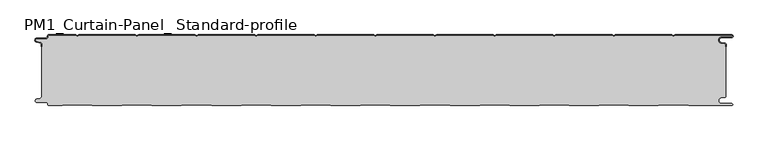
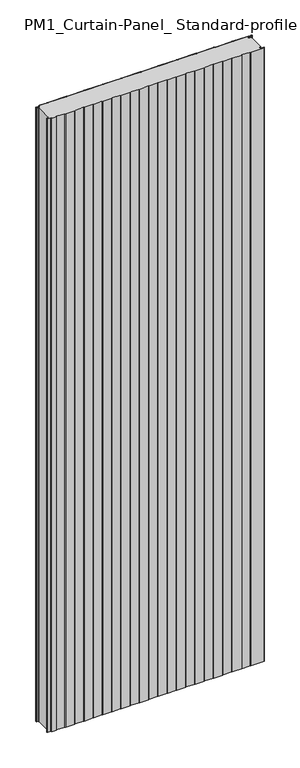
"""IFC4 building model written with IfcOpenShell, lengths in millimetres: plate geometry, PM1_Curtain-Panel_ Standard-profile : ACH_PM1_Acoustic-Sectioning-Panel_120M."""

from ifc_helpers import new_model, si_unit, point, frame, frame_2d, origin, origin_with_axes, place, context, project, spatial, polyline, circle_curve, trimmed, segment, composite_curve, outline, extrude, source, transform, mapped, element, save
from ifc_brep_helpers import plane_surface, cylinder_surface, revolved_surface, advanced_brep


def pm1_curtain_panel_standard_profile_a12e6484(model_context):
    return source(origin(), model_context, "Body", "SolidModel", [
        advanced_brep(
        [(-575.0, -15.878557, 3500.0), (-575.0, -20.0, 3500.0), (-574.2, -20.0, 3500.0), (-574.2, -15.878557, 3500.0), (-576.370137, -13.1503208, 3500.0), (-582.529863, -11.728236, 3500.0), (-581.9, -6.2, 3500.0), (-566.4, -6.2, 3500.0), (-563.6, -3.4, 3500.0), (-563.6, -2.0, 3500.0), (-562.4, -0.8, 3500.0), (-517.3143588, -0.8, 3500.0), (-514.4, -2.482606, 3500.0), (-511.4856412, -0.8, 3500.0), (-417.3143588, -0.8, 3500.0), (-414.4, -2.482606, 3500.0), (-411.4856412, -0.8, 3500.0), (-317.3143588, -0.8, 3500.0), (-314.4, -2.482606, 3500.0), (-311.4856412, -0.8, 3500.0), (-217.3143588, -0.8, 3500.0), (-214.4, -2.482606, 3500.0), (-211.4856412, -0.8, 3500.0), (-117.3143588, -0.8, 3500.0), (-114.4, -2.482606, 3500.0), (-111.4856412, -0.8, 3500.0), (-17.3143588, -0.8, 3500.0), (-14.4, -2.482606, 3500.0), (-11.4856412, -0.8, 3500.0), (82.6856412, -0.8, 3500.0), (85.6, -2.482606, 3500.0), (88.5143588, -0.8, 3500.0), (182.6856412, -0.8, 3500.0), (185.6, -2.482606, 3500.0), (188.5143588, -0.8, 3500.0), (282.6856412, -0.8, 3500.0), (285.6, -2.482606, 3500.0), (288.5143588, -0.8, 3500.0), (382.6856412, -0.8, 3500.0), (385.6, -2.482606, 3500.0), (388.5143588, -0.8, 3500.0), (482.6856412, -0.8, 3500.0), (485.6, -2.482606, 3500.0), (488.5143588, -0.8, 3500.0), (583.1, -0.8, 3500.0), (583.1, -4.2, 3500.0), (566.1, -4.2, 3500.0), (565.2664884, -13.7270771, 3500.0), (571.7125669, -14.8636953, 3500.0), (573.2, -16.6363492, 3500.0), (573.2, -20.0, 3500.0), (574.0, -20.0, 3500.0), (574.0, -16.6363492, 3500.0), (571.8514855, -14.0758491, 3500.0), (565.405407, -12.939231, 3500.0), (566.1, -5.0, 3500.0), (583.1, -5.0, 3500.0), (585.6, -2.5, 3500.0), (583.1, 0.0, 3500.0), (488.2999995, 0.0, 3500.0), (485.6, -1.5588455, 3500.0), (482.9000005, 0.0, 3500.0), (388.2999995, 0.0, 3500.0), (385.6, -1.5588455, 3500.0), (382.9000005, 0.0, 3500.0), (288.2999995, 0.0, 3500.0), (285.6, -1.5588455, 3500.0), (282.9000005, 0.0, 3500.0), (188.2999995, 0.0, 3500.0), (185.6, -1.5588455, 3500.0), (182.9000005, 0.0, 3500.0), (88.2999995, 0.0, 3500.0), (85.6, -1.5588455, 3500.0), (82.9000005, 0.0, 3500.0), (-11.7000005, 0.0, 3500.0), (-14.4, -1.5588455, 3500.0), (-17.0999995, 0.0, 3500.0), (-111.7000005, 0.0, 3500.0), (-114.4, -1.5588455, 3500.0), (-117.0999995, 0.0, 3500.0), (-211.7000005, 0.0, 3500.0), (-214.4, -1.5588455, 3500.0), (-217.0999995, 0.0, 3500.0), (-311.7000005, 0.0, 3500.0), (-314.4, -1.5588455, 3500.0), (-317.0999995, 0.0, 3500.0), (-411.7000005, 0.0, 3500.0), (-414.4, -1.5588455, 3500.0), (-417.0999995, 0.0, 3500.0), (-511.7000005, 0.0, 3500.0), (-514.4, -1.5588455, 3500.0), (-517.0999995, 0.0, 3500.0), (-562.4, 0.0, 3500.0), (-564.4, -2.0, 3500.0), (-564.4, -3.4, 3500.0), (-566.4, -5.4, 3500.0), (-581.9, -5.4, 3500.0), (-582.7098239, -12.5077322, 3500.0), (-576.5500979, -13.929817, 3500.0), (-575.0, -15.878557, 0.0), (-576.5500978, -13.9298169, 0.0), (-582.7098239, -12.507732, 0.0), (-581.9, -5.4, 0.0), (-566.4, -5.4, 0.0), (-564.4, -3.4, 0.0), (-564.4, -2.0, 0.0), (-562.4, 0.0, 0.0), (-517.0999995, 0.0, 0.0), (-514.4, -1.5588455, 0.0), (-511.7000005, 0.0, 0.0), (-417.0999995, 0.0, 0.0), (-414.4, -1.5588455, 0.0), (-411.7000005, 0.0, 0.0), (-317.0999995, 0.0, 0.0), (-314.4, -1.5588455, 0.0), (-311.7000005, 0.0, 0.0), (-217.0999995, 0.0, 0.0), (-214.4, -1.5588455, 0.0), (-211.7000005, 0.0, 0.0), (-117.0999995, 0.0, 0.0), (-114.4, -1.5588455, 0.0), (-111.7000005, 0.0, 0.0), (-17.0999995, 0.0, 0.0), (-14.4, -1.5588455, 0.0), (-11.7000005, 0.0, 0.0), (82.9000005, 0.0, 0.0), (85.6, -1.5588455, 0.0), (88.2999995, 0.0, 0.0), (182.9000005, 0.0, 0.0), (185.6, -1.5588455, 0.0), (188.2999995, 0.0, 0.0), (282.9000005, 0.0, 0.0), (285.6, -1.5588455, 0.0), (288.2999995, 0.0, 0.0), (382.9000005, 0.0, 0.0), (385.6, -1.5588455, 0.0), (388.2999995, 0.0, 0.0), (482.9000005, 0.0, 0.0), (485.6, -1.5588455, 0.0), (488.2999995, 0.0, 0.0), (583.1, 0.0, 0.0), (585.6, -2.5, 0.0), (583.1, -5.0, 0.0), (566.1, -5.0, 0.0), (565.405407, -12.939231, 0.0), (571.8514855, -14.0758491, 0.0), (574.0, -16.6363492, 0.0), (574.0, -20.0, 0.0), (573.2, -20.0, 0.0), (573.2, -16.6363492, 0.0), (571.7125669, -14.8636953, 0.0), (565.2664884, -13.7270772, 0.0), (566.1, -4.2, 0.0), (583.1, -4.2, 0.0), (583.1, -0.8, 0.0), (488.5143588, -0.8, 0.0), (485.6, -2.482606, 0.0), (482.6856412, -0.8, 0.0), (388.5143588, -0.8, 0.0), (385.6, -2.482606, 0.0), (382.6856412, -0.8, 0.0), (288.5143588, -0.8, 0.0), (285.6, -2.482606, 0.0), (282.6856412, -0.8, 0.0), (188.5143588, -0.8, 0.0), (185.6, -2.482606, 0.0), (182.6856412, -0.8, 0.0), (88.5143588, -0.8, 0.0), (85.6, -2.482606, 0.0), (82.6856412, -0.8, 0.0), (-11.4856412, -0.8, 0.0), (-14.4, -2.482606, 0.0), (-17.3143588, -0.8, 0.0), (-111.4856412, -0.8, 0.0), (-114.4, -2.482606, 0.0), (-117.3143588, -0.8, 0.0), (-211.4856412, -0.8, 0.0), (-214.4, -2.482606, 0.0), (-217.3143588, -0.8, 0.0), (-311.4856412, -0.8, 0.0), (-314.4, -2.482606, 0.0), (-317.3143588, -0.8, 0.0), (-411.4856412, -0.8, 0.0), (-414.4, -2.482606, 0.0), (-417.3143588, -0.8, 0.0), (-511.4856412, -0.8, 0.0), (-514.4, -2.482606, 0.0), (-517.3143588, -0.8, 0.0), (-562.4, -0.8, 0.0), (-563.6, -2.0, 0.0), (-563.6, -3.4, 0.0), (-566.4, -6.2, 0.0), (-581.9, -6.2, 0.0), (-582.529863, -11.7282362, 0.0), (-576.370137, -13.150321, 0.0), (-574.2, -15.878557, 0.0), (-574.2, -20.0, 0.0), (-575.0, -20.0, 0.0)],
        [
            (0, 1),
            (1, 2),
            (2, 3),
            (3, 4, circle_curve(frame((-577.0, -15.878557, 3500.0), z_axis=(0.0, 0.0, 1.0), x_axis=(1.0, 0.0, 0.0)), 2.8)),
            (4, 5),
            (5, 6, circle_curve(frame((-581.9, -9.0, 3500.0), z_axis=(0.0, 0.0, -1.0), x_axis=(1.0, 0.0, 0.0)), 2.8)),
            (6, 7),
            (7, 8, circle_curve(frame((-566.4, -3.4, 3500.0), z_axis=(0.0, 0.0, 1.0), x_axis=(1.0, 0.0, 0.0)), 2.8)),
            (8, 9),
            (9, 10, circle_curve(frame((-562.4, -2.0, 3500.0), z_axis=(0.0, 0.0, -1.0), x_axis=(1.0, 0.0, 0.0)), 1.2)),
            (10, 11),
            (11, 12),
            (12, 13),
            (13, 14),
            (14, 15),
            (15, 16),
            (16, 17),
            (17, 18),
            (18, 19),
            (19, 20),
            (20, 21),
            (21, 22),
            (22, 23),
            (23, 24),
            (24, 25),
            (25, 26),
            (26, 27),
            (27, 28),
            (28, 29),
            (29, 30),
            (30, 31),
            (31, 32),
            (32, 33),
            (33, 34),
            (34, 35),
            (35, 36),
            (36, 37),
            (37, 38),
            (38, 39),
            (39, 40),
            (40, 41),
            (41, 42),
            (42, 43),
            (43, 44),
            (44, 45, circle_curve(frame((583.1, -2.5, 3500.0), z_axis=(0.0, 0.0, -1.0), x_axis=(1.0, 0.0, 0.0)), 1.7)),
            (45, 46),
            (46, 47, circle_curve(frame((566.1, -9.0, 3500.0), z_axis=(0.0, 0.0, 1.0), x_axis=(1.0, 0.0, 0.0)), 4.8)),
            (47, 48),
            (48, 49, circle_curve(frame((571.4, -16.6363492, 3500.0), z_axis=(0.0, 0.0, -1.0), x_axis=(1.0, 0.0, 0.0)), 1.8)),
            (49, 50),
            (50, 51),
            (51, 52),
            (52, 53, circle_curve(frame((571.4, -16.6363492, 3500.0), z_axis=(0.0, 0.0, 1.0), x_axis=(1.0, 0.0, 0.0)), 2.6)),
            (53, 54),
            (54, 55, circle_curve(frame((566.1, -9.0, 3500.0), z_axis=(0.0, 0.0, -1.0), x_axis=(1.0, 0.0, 0.0)), 4.0)),
            (55, 56),
            (56, 57, circle_curve(frame((583.1, -2.5, 3500.0), z_axis=(0.0, 0.0, 1.0), x_axis=(1.0, 0.0, 0.0)), 2.5)),
            (57, 58, circle_curve(frame((583.1, -2.5, 3500.0), z_axis=(0.0, 0.0, 1.0), x_axis=(1.0, 0.0, 0.0)), 2.5)),
            (58, 59),
            (59, 60),
            (60, 61),
            (61, 62),
            (62, 63),
            (63, 64),
            (64, 65),
            (65, 66),
            (66, 67),
            (67, 68),
            (68, 69),
            (69, 70),
            (70, 71),
            (71, 72),
            (72, 73),
            (73, 74),
            (74, 75),
            (75, 76),
            (76, 77),
            (77, 78),
            (78, 79),
            (79, 80),
            (80, 81),
            (81, 82),
            (82, 83),
            (83, 84),
            (84, 85),
            (85, 86),
            (86, 87),
            (87, 88),
            (88, 89),
            (89, 90),
            (90, 91),
            (91, 92),
            (92, 93, circle_curve(frame((-562.4, -2.0, 3500.0), z_axis=(0.0, 0.0, 1.0), x_axis=(1.0, 0.0, 0.0)), 2.0)),
            (93, 94),
            (94, 95, circle_curve(frame((-566.4, -3.4, 3500.0), z_axis=(0.0, 0.0, -1.0), x_axis=(1.0, 0.0, 0.0)), 2.0)),
            (95, 96),
            (96, 97, circle_curve(frame((-581.9, -9.0, 3500.0), z_axis=(0.0, 0.0, 1.0), x_axis=(1.0, 0.0, 0.0)), 3.6)),
            (97, 98),
            (98, 0, circle_curve(frame((-577.0, -15.878557, 3500.0), z_axis=(0.0, 0.0, -1.0), x_axis=(1.0, 0.0, 0.0)), 2.0)),
            (99, 100, circle_curve(frame((-577.0, -15.878557, 0.0), z_axis=(0.0, 0.0, 1.0), x_axis=(1.0, 0.0, 0.0)), 2.0)),
            (100, 101),
            (101, 102, circle_curve(frame((-581.9, -9.0, 0.0), z_axis=(0.0, 0.0, -1.0), x_axis=(1.0, 0.0, 0.0)), 3.6)),
            (102, 103),
            (103, 104, circle_curve(frame((-566.4, -3.4, 0.0), z_axis=(0.0, 0.0, 1.0), x_axis=(1.0, 0.0, 0.0)), 2.0)),
            (104, 105),
            (105, 106, circle_curve(frame((-562.4, -2.0, 0.0), z_axis=(0.0, 0.0, -1.0), x_axis=(1.0, 0.0, 0.0)), 2.0)),
            (106, 107),
            (107, 108),
            (108, 109),
            (109, 110),
            (110, 111),
            (111, 112),
            (112, 113),
            (113, 114),
            (114, 115),
            (115, 116),
            (116, 117),
            (117, 118),
            (118, 119),
            (119, 120),
            (120, 121),
            (121, 122),
            (122, 123),
            (123, 124),
            (124, 125),
            (125, 126),
            (126, 127),
            (127, 128),
            (128, 129),
            (129, 130),
            (130, 131),
            (131, 132),
            (132, 133),
            (133, 134),
            (134, 135),
            (135, 136),
            (136, 137),
            (137, 138),
            (138, 139),
            (139, 140),
            (140, 141, circle_curve(frame((583.1, -2.5, 0.0), z_axis=(0.0, 0.0, -1.0), x_axis=(1.0, 0.0, 0.0)), 2.5)),
            (141, 142, circle_curve(frame((583.1, -2.5, 0.0), z_axis=(0.0, 0.0, -1.0), x_axis=(1.0, 0.0, 0.0)), 2.5)),
            (142, 143),
            (143, 144, circle_curve(frame((566.1, -9.0, 0.0), z_axis=(0.0, 0.0, 1.0), x_axis=(1.0, 0.0, 0.0)), 4.0)),
            (144, 145),
            (145, 146, circle_curve(frame((571.4, -16.6363492, 0.0), z_axis=(0.0, 0.0, -1.0), x_axis=(1.0, 0.0, 0.0)), 2.6)),
            (146, 147),
            (147, 148),
            (148, 149),
            (149, 150, circle_curve(frame((571.4, -16.6363492, 0.0), z_axis=(0.0, 0.0, 1.0), x_axis=(1.0, 0.0, 0.0)), 1.8)),
            (150, 151),
            (151, 152, circle_curve(frame((566.1, -9.0, 0.0), z_axis=(0.0, 0.0, -1.0), x_axis=(1.0, 0.0, 0.0)), 4.8)),
            (152, 153),
            (153, 154, circle_curve(frame((583.1, -2.5, 0.0), z_axis=(0.0, 0.0, 1.0), x_axis=(1.0, 0.0, 0.0)), 1.7)),
            (154, 155),
            (155, 156),
            (156, 157),
            (157, 158),
            (158, 159),
            (159, 160),
            (160, 161),
            (161, 162),
            (162, 163),
            (163, 164),
            (164, 165),
            (165, 166),
            (166, 167),
            (167, 168),
            (168, 169),
            (169, 170),
            (170, 171),
            (171, 172),
            (172, 173),
            (173, 174),
            (174, 175),
            (175, 176),
            (176, 177),
            (177, 178),
            (178, 179),
            (179, 180),
            (180, 181),
            (181, 182),
            (182, 183),
            (183, 184),
            (184, 185),
            (185, 186),
            (186, 187),
            (187, 188),
            (188, 189, circle_curve(frame((-562.4, -2.0, 0.0), z_axis=(0.0, 0.0, 1.0), x_axis=(1.0, 0.0, 0.0)), 1.2)),
            (189, 190),
            (190, 191, circle_curve(frame((-566.4, -3.4, 0.0), z_axis=(0.0, 0.0, -1.0), x_axis=(1.0, 0.0, 0.0)), 2.8)),
            (191, 192),
            (192, 193, circle_curve(frame((-581.9, -9.0, 0.0), z_axis=(0.0, 0.0, 1.0), x_axis=(1.0, 0.0, 0.0)), 2.8)),
            (193, 194),
            (194, 195, circle_curve(frame((-577.0, -15.878557, 0.0), z_axis=(0.0, 0.0, -1.0), x_axis=(1.0, 0.0, 0.0)), 2.8)),
            (195, 196),
            (196, 197),
            (197, 99),
            (0, 99),
            (197, 1),
            (196, 2),
            (195, 3),
            (194, 4),
            (193, 5),
            (192, 6),
            (191, 7),
            (190, 8),
            (189, 9),
            (188, 10),
            (187, 11),
            (186, 12),
            (185, 13),
            (184, 14),
            (183, 15),
            (182, 16),
            (181, 17),
            (180, 18),
            (179, 19),
            (178, 20),
            (177, 21),
            (176, 22),
            (175, 23),
            (174, 24),
            (173, 25),
            (172, 26),
            (171, 27),
            (170, 28),
            (169, 29),
            (168, 30),
            (167, 31),
            (166, 32),
            (165, 33),
            (164, 34),
            (163, 35),
            (162, 36),
            (161, 37),
            (160, 38),
            (159, 39),
            (158, 40),
            (157, 41),
            (156, 42),
            (155, 43),
            (154, 44),
            (153, 45),
            (152, 46),
            (151, 47),
            (150, 48),
            (149, 49),
            (148, 50),
            (147, 51),
            (146, 52),
            (145, 53),
            (144, 54),
            (143, 55),
            (142, 56),
            (140, 58),
            (139, 59),
            (138, 60),
            (137, 61),
            (136, 62),
            (135, 63),
            (134, 64),
            (133, 65),
            (132, 66),
            (131, 67),
            (130, 68),
            (129, 69),
            (128, 70),
            (127, 71),
            (126, 72),
            (125, 73),
            (124, 74),
            (123, 75),
            (122, 76),
            (121, 77),
            (120, 78),
            (119, 79),
            (118, 80),
            (117, 81),
            (116, 82),
            (115, 83),
            (114, 84),
            (113, 85),
            (112, 86),
            (111, 87),
            (110, 88),
            (109, 89),
            (108, 90),
            (107, 91),
            (106, 92),
            (105, 93),
            (104, 94),
            (103, 95),
            (102, 96),
            (101, 97),
            (100, 98),
        ],
        [
            plane_surface(frame((-575.0, 0.0, 3500.0), z_axis=(0.0, 0.0, 1.0), x_axis=(0.0, 1.0, 0.0))),
            plane_surface(frame((-575.0, 0.0, 0.0), z_axis=(0.0, 0.0, -1.0), x_axis=(0.0, 1.0, 0.0))),
            plane_surface(frame((-575.0, -15.878557, 3500.0), z_axis=(-1.0, 0.0, 0.0), x_axis=(0.0, 0.0, -1.0))),
            plane_surface(frame((-575.0, -20.0, 3500.0), z_axis=(0.0, -1.0, 0.0), x_axis=(0.0, 0.0, -1.0))),
            plane_surface(frame((-574.2, -20.0, 3500.0), z_axis=(1.0, 0.0, 0.0), x_axis=(0.0, 0.0, -1.0))),
            cylinder_surface(frame((-577.0, -15.878557, 3500.0), z_axis=(0.0, 0.0, 1.0), x_axis=(1.0, 0.0, 0.0)), 2.8),
            plane_surface(frame((-576.370137, -13.150321, 3500.0), z_axis=(0.22495108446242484, 0.9743700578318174, 0.0), x_axis=(0.0, 0.0, -1.0))),
            revolved_surface(polyline([(-579.1, -9.0, 0.0), (-579.1, -9.0, 3500.0)]), (-581.9, -9.0, 3500.0), (0.0, 0.0, -1.0)),
            plane_surface(frame((-581.9, -6.2, 3500.0), z_axis=(0.0, -1.0, 0.0), x_axis=(0.0, 0.0, -1.0))),
            cylinder_surface(frame((-566.4, -3.4, 3500.0), z_axis=(0.0, 0.0, 1.0), x_axis=(1.0, 0.0, 0.0)), 2.8),
            plane_surface(frame((-563.6, -3.4, 3500.0), z_axis=(1.0, 0.0, 0.0), x_axis=(0.0, 0.0, -1.0))),
            revolved_surface(polyline([(-561.1999999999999, -2.0, 0.0), (-561.1999999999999, -2.0, 3500.0)]), (-562.4, -2.0, 3500.0), (0.0, 0.0, -1.0)),
            plane_surface(frame((-562.4, -0.8, 3500.0), z_axis=(0.0, -1.0, 0.0), x_axis=(0.0, 0.0, -1.0))),
            plane_surface(frame((-517.3143588, -0.8, 3500.0), z_axis=(-0.5000000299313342, -0.8660253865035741, 0.0), x_axis=(0.0, 0.0, -1.0))),
            plane_surface(frame((-514.4, -2.482606, 3500.0), z_axis=(0.5000000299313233, -0.8660253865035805, 0.0), x_axis=(0.0, 0.0, -1.0))),
            plane_surface(frame((-511.4856412, -0.8, 3500.0), z_axis=(0.0, -1.0, 0.0), x_axis=(0.0, 0.0, -1.0))),
            plane_surface(frame((-417.3143588, -0.8, 3500.0), z_axis=(-0.5000000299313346, -0.8660253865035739, 0.0), x_axis=(0.0, 0.0, -1.0))),
            plane_surface(frame((-414.4, -2.482606, 3500.0), z_axis=(0.5000000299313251, -0.8660253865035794, 0.0), x_axis=(0.0, 0.0, -1.0))),
            plane_surface(frame((-411.4856412, -0.8, 3500.0), z_axis=(0.0, -1.0, 0.0), x_axis=(0.0, 0.0, -1.0))),
            plane_surface(frame((-317.3143588, -0.8, 3500.0), z_axis=(-0.5000000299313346, -0.866025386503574, 0.0), x_axis=(0.0, 0.0, -1.0))),
            plane_surface(frame((-314.4, -2.482606, 3500.0), z_axis=(0.5000000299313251, -0.8660253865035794, 0.0), x_axis=(0.0, 0.0, -1.0))),
            plane_surface(frame((-311.4856412, -0.8, 3500.0), z_axis=(0.0, -1.0, 0.0), x_axis=(0.0, 0.0, -1.0))),
            plane_surface(frame((-217.3143588, -0.8, 3500.0), z_axis=(-0.5000000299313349, -0.8660253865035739, 0.0), x_axis=(0.0, 0.0, -1.0))),
            plane_surface(frame((-214.4, -2.482606, 3500.0), z_axis=(0.5000000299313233, -0.8660253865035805, 0.0), x_axis=(0.0, 0.0, -1.0))),
            plane_surface(frame((-211.4856412, -0.8, 3500.0), z_axis=(0.0, -1.0, 0.0), x_axis=(0.0, 0.0, -1.0))),
            plane_surface(frame((-117.3143588, -0.8, 3500.0), z_axis=(-0.5000000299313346, -0.866025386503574, 0.0), x_axis=(0.0, 0.0, -1.0))),
            plane_surface(frame((-114.4, -2.482606, 3500.0), z_axis=(0.5000000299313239, -0.8660253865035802, 0.0), x_axis=(0.0, 0.0, -1.0))),
            plane_surface(frame((-111.4856412, -0.8, 3500.0), z_axis=(0.0, -1.0, 0.0), x_axis=(0.0, 0.0, -1.0))),
            plane_surface(frame((-17.3143588, -0.8, 3500.0), z_axis=(-0.5000000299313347, -0.8660253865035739, 0.0), x_axis=(0.0, 0.0, -1.0))),
            plane_surface(frame((-14.4, -2.482606, 3500.0), z_axis=(0.5000000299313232, -0.8660253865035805, 0.0), x_axis=(0.0, 0.0, -1.0))),
            plane_surface(frame((-11.4856412, -0.8, 3500.0), z_axis=(0.0, -1.0, 0.0), x_axis=(0.0, 0.0, -1.0))),
            plane_surface(frame((82.6856412, -0.8, 3500.0), z_axis=(-0.5000000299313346, -0.866025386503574, 0.0), x_axis=(0.0, 0.0, -1.0))),
            plane_surface(frame((85.6, -2.482606, 3500.0), z_axis=(0.5000000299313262, -0.8660253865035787, 0.0), x_axis=(0.0, 0.0, -1.0))),
            plane_surface(frame((88.5143588, -0.8, 3500.0), z_axis=(0.0, -1.0, 0.0), x_axis=(0.0, 0.0, -1.0))),
            plane_surface(frame((182.6856412, -0.8, 3500.0), z_axis=(-0.5000000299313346, -0.8660253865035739, 0.0), x_axis=(0.0, 0.0, -1.0))),
            plane_surface(frame((185.6, -2.482606, 3500.0), z_axis=(0.5000000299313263, -0.8660253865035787, 0.0), x_axis=(0.0, 0.0, -1.0))),
            plane_surface(frame((188.5143588, -0.8, 3500.0), z_axis=(0.0, -1.0, 0.0), x_axis=(0.0, 0.0, -1.0))),
            plane_surface(frame((282.6856412, -0.8, 3500.0), z_axis=(-0.5000000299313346, -0.8660253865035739, 0.0), x_axis=(0.0, 0.0, -1.0))),
            plane_surface(frame((285.6, -2.482606, 3500.0), z_axis=(0.5000000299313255, -0.8660253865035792, 0.0), x_axis=(0.0, 0.0, -1.0))),
            plane_surface(frame((288.5143588, -0.8, 3500.0), z_axis=(0.0, -1.0, 0.0), x_axis=(0.0, 0.0, -1.0))),
            plane_surface(frame((382.6856412, -0.8, 3500.0), z_axis=(-0.5000000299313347, -0.8660253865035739, 0.0), x_axis=(0.0, 0.0, -1.0))),
            plane_surface(frame((385.6, -2.482606, 3500.0), z_axis=(0.5000000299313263, -0.8660253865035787, 0.0), x_axis=(0.0, 0.0, -1.0))),
            plane_surface(frame((388.5143588, -0.8, 3500.0), z_axis=(0.0, -1.0, 0.0), x_axis=(0.0, 0.0, -1.0))),
            plane_surface(frame((482.6856412, -0.8, 3500.0), z_axis=(-0.5000000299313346, -0.866025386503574, 0.0), x_axis=(0.0, 0.0, -1.0))),
            plane_surface(frame((485.6, -2.482606, 3500.0), z_axis=(0.5000000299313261, -0.8660253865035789, 0.0), x_axis=(0.0, 0.0, -1.0))),
            plane_surface(frame((535.6, -0.8, 3500.0), z_axis=(0.0, -1.0, 0.0), x_axis=(0.0, 0.0, -1.0))),
            revolved_surface(polyline([(584.8000000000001, -2.5, 0.0), (584.8000000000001, -2.5, 3500.0)]), (583.1, -2.5, 3500.0), (0.0, 0.0, -1.0)),
            plane_surface(frame((583.1, -4.2, 3500.0), z_axis=(0.0, 1.0, 0.0), x_axis=(0.0, 0.0, -1.0))),
            cylinder_surface(frame((566.1, -9.0, 3500.0), z_axis=(0.0, 0.0, 1.0), x_axis=(1.0, 0.0, 0.0)), 4.8),
            plane_surface(frame((565.2664884, -13.7270772, 3500.0), z_axis=(-0.17364825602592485, -0.9848077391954, 0.0), x_axis=(0.0, 0.0, -1.0))),
            revolved_surface(polyline([(573.1999999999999, -16.6363492, 0.0), (573.1999999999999, -16.6363492, 3500.0)]), (571.4, -16.6363492, 3500.0), (0.0, 0.0, -1.0)),
            plane_surface(frame((573.2, -16.6363492, 3500.0), z_axis=(-1.0, 0.0, 0.0), x_axis=(0.0, 0.0, -1.0))),
            plane_surface(frame((573.2, -20.0, 3500.0), z_axis=(0.0, -1.0, 0.0), x_axis=(0.0, 0.0, -1.0))),
            plane_surface(frame((574.0, -20.0, 3500.0), z_axis=(1.0, 0.0, 0.0), x_axis=(0.0, 0.0, -1.0))),
            cylinder_surface(frame((571.4, -16.6363492, 3500.0), z_axis=(0.0, 0.0, 1.0), x_axis=(1.0, 0.0, 0.0)), 2.6),
            plane_surface(frame((571.8514855, -14.0758491, 3500.0), z_axis=(0.1736482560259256, 0.9848077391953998, 0.0), x_axis=(0.0, 0.0, -1.0))),
            revolved_surface(polyline([(570.1, -9.0, 0.0), (570.1, -9.0, 3500.0)]), (566.1, -9.0, 3500.0), (0.0, 0.0, -1.0)),
            plane_surface(frame((566.1, -5.0, 3500.0), z_axis=(0.0, -1.0, 0.0), x_axis=(0.0, 0.0, -1.0))),
            cylinder_surface(frame((583.1, -2.5, 3500.0), z_axis=(0.0, 0.0, 1.0), x_axis=(1.0, 0.0, 0.0)), 2.5),
            plane_surface(frame((535.6, 0.0, 3500.0), z_axis=(0.0, 1.0, 0.0), x_axis=(0.0, 0.0, -1.0))),
            plane_surface(frame((488.2999995, 0.0, 3500.0), z_axis=(-0.5000000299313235, 0.8660253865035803, 0.0), x_axis=(0.0, 0.0, -1.0))),
            plane_surface(frame((485.6, -1.5588455, 3500.0), z_axis=(0.5000000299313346, 0.8660253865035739, 0.0), x_axis=(0.0, 0.0, -1.0))),
            plane_surface(frame((482.9000005, 0.0, 3500.0), z_axis=(0.0, 1.0, 0.0), x_axis=(0.0, 0.0, -1.0))),
            plane_surface(frame((388.2999995, 0.0, 3500.0), z_axis=(-0.5000000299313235, 0.8660253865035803, 0.0), x_axis=(0.0, 0.0, -1.0))),
            plane_surface(frame((385.6, -1.5588455, 3500.0), z_axis=(0.5000000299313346, 0.8660253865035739, 0.0), x_axis=(0.0, 0.0, -1.0))),
            plane_surface(frame((382.9000005, 0.0, 3500.0), z_axis=(0.0, 1.0, 0.0), x_axis=(0.0, 0.0, -1.0))),
            plane_surface(frame((288.2999995, 0.0, 3500.0), z_axis=(-0.5000000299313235, 0.8660253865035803, 0.0), x_axis=(0.0, 0.0, -1.0))),
            plane_surface(frame((285.6, -1.5588455, 3500.0), z_axis=(0.5000000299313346, 0.8660253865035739, 0.0), x_axis=(0.0, 0.0, -1.0))),
            plane_surface(frame((282.9000005, 0.0, 3500.0), z_axis=(0.0, 1.0, 0.0), x_axis=(0.0, 0.0, -1.0))),
            plane_surface(frame((188.2999995, 0.0, 3500.0), z_axis=(-0.5000000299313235, 0.8660253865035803, 0.0), x_axis=(0.0, 0.0, -1.0))),
            plane_surface(frame((185.6, -1.5588455, 3500.0), z_axis=(0.5000000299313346, 0.8660253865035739, 0.0), x_axis=(0.0, 0.0, -1.0))),
            plane_surface(frame((182.9000005, 0.0, 3500.0), z_axis=(0.0, 1.0, 0.0), x_axis=(0.0, 0.0, -1.0))),
            plane_surface(frame((88.2999995, 0.0, 3500.0), z_axis=(-0.5000000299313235, 0.8660253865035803, 0.0), x_axis=(0.0, 0.0, -1.0))),
            plane_surface(frame((85.6, -1.5588455, 3500.0), z_axis=(0.5000000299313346, 0.8660253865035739, 0.0), x_axis=(0.0, 0.0, -1.0))),
            plane_surface(frame((82.9000005, 0.0, 3500.0), z_axis=(0.0, 1.0, 0.0), x_axis=(0.0, 0.0, -1.0))),
            plane_surface(frame((-11.7000005, 0.0, 3500.0), z_axis=(-0.5000000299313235, 0.8660253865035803, 0.0), x_axis=(0.0, 0.0, -1.0))),
            plane_surface(frame((-14.4, -1.5588455, 3500.0), z_axis=(0.5000000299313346, 0.8660253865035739, 0.0), x_axis=(0.0, 0.0, -1.0))),
            plane_surface(frame((-17.0999995, 0.0, 3500.0), z_axis=(0.0, 1.0, 0.0), x_axis=(0.0, 0.0, -1.0))),
            plane_surface(frame((-111.7000005, 0.0, 3500.0), z_axis=(-0.5000000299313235, 0.8660253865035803, 0.0), x_axis=(0.0, 0.0, -1.0))),
            plane_surface(frame((-114.4, -1.5588455, 3500.0), z_axis=(0.5000000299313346, 0.8660253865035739, 0.0), x_axis=(0.0, 0.0, -1.0))),
            plane_surface(frame((-117.0999995, 0.0, 3500.0), z_axis=(0.0, 1.0, 0.0), x_axis=(0.0, 0.0, -1.0))),
            plane_surface(frame((-211.7000005, 0.0, 3500.0), z_axis=(-0.5000000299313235, 0.8660253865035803, 0.0), x_axis=(0.0, 0.0, -1.0))),
            plane_surface(frame((-214.4, -1.5588455, 3500.0), z_axis=(0.5000000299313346, 0.8660253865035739, 0.0), x_axis=(0.0, 0.0, -1.0))),
            plane_surface(frame((-217.0999995, 0.0, 3500.0), z_axis=(0.0, 1.0, 0.0), x_axis=(0.0, 0.0, -1.0))),
            plane_surface(frame((-311.7000005, 0.0, 3500.0), z_axis=(-0.5000000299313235, 0.8660253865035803, 0.0), x_axis=(0.0, 0.0, -1.0))),
            plane_surface(frame((-314.4, -1.5588455, 3500.0), z_axis=(0.5000000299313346, 0.8660253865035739, 0.0), x_axis=(0.0, 0.0, -1.0))),
            plane_surface(frame((-317.0999995, 0.0, 3500.0), z_axis=(0.0, 1.0, 0.0), x_axis=(0.0, 0.0, -1.0))),
            plane_surface(frame((-411.7000005, 0.0, 3500.0), z_axis=(-0.5000000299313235, 0.8660253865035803, 0.0), x_axis=(0.0, 0.0, -1.0))),
            plane_surface(frame((-414.4, -1.5588455, 3500.0), z_axis=(0.5000000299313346, 0.8660253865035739, 0.0), x_axis=(0.0, 0.0, -1.0))),
            plane_surface(frame((-417.0999995, 0.0, 3500.0), z_axis=(0.0, 1.0, 0.0), x_axis=(0.0, 0.0, -1.0))),
            plane_surface(frame((-511.7000005, 0.0, 3500.0), z_axis=(-0.5000000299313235, 0.8660253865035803, 0.0), x_axis=(0.0, 0.0, -1.0))),
            plane_surface(frame((-514.4, -1.5588455, 3500.0), z_axis=(0.5000000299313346, 0.8660253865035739, 0.0), x_axis=(0.0, 0.0, -1.0))),
            plane_surface(frame((-517.0999995, 0.0, 3500.0), z_axis=(0.0, 1.0, 0.0), x_axis=(0.0, 0.0, -1.0))),
            cylinder_surface(frame((-562.4, -2.0, 3500.0), z_axis=(0.0, 0.0, 1.0), x_axis=(1.0, 0.0, 0.0)), 2.0),
            plane_surface(frame((-564.4, -2.0, 3500.0), z_axis=(-1.0, 0.0, 0.0), x_axis=(0.0, 0.0, -1.0))),
            revolved_surface(polyline([(-564.4, -3.4, 0.0), (-564.4, -3.4, 3500.0)]), (-566.4, -3.4, 3500.0), (0.0, 0.0, -1.0)),
            plane_surface(frame((-566.4, -5.4, 3500.0), z_axis=(0.0, 1.0, 0.0), x_axis=(0.0, 0.0, -1.0))),
            cylinder_surface(frame((-581.9, -9.0, 3500.0), z_axis=(0.0, 0.0, 1.0), x_axis=(1.0, 0.0, 0.0)), 3.6),
            plane_surface(frame((-582.7098239, -12.507732, 3500.0), z_axis=(-0.22495108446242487, -0.9743700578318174, 0.0), x_axis=(0.0, 0.0, -1.0))),
            revolved_surface(polyline([(-575.0, -15.878557, 0.0), (-575.0, -15.878557, 3500.0)]), (-577.0, -15.878557, 3500.0), (0.0, 0.0, -1.0)),
        ],
        [
            (0, [[1, 2, 3, 4, 5, 6, 7, 8, 9, 10, 11, 12, 13, 14, 15, 16, 17, 18, 19, 20, 21, 22, 23, 24, 25, 26, 27, 28, 29, 30, 31, 32, 33, 34, 35, 36, 37, 38, 39, 40, 41, 42, 43, 44, 45, 46, 47, 48, 49, 50, 51, 52, 53, 54, 55, 56, 57, 58, 59, 60, 61, 62, 63, 64, 65, 66, 67, 68, 69, 70, 71, 72, 73, 74, 75, 76, 77, 78, 79, 80, 81, 82, 83, 84, 85, 86, 87, 88, 89, 90, 91, 92, 93, 94, 95, 96, 97, 98, 99]]),
            (1, [[100, 101, 102, 103, 104, 105, 106, 107, 108, 109, 110, 111, 112, 113, 114, 115, 116, 117, 118, 119, 120, 121, 122, 123, 124, 125, 126, 127, 128, 129, 130, 131, 132, 133, 134, 135, 136, 137, 138, 139, 140, 141, 142, 143, 144, 145, 146, 147, 148, 149, 150, 151, 152, 153, 154, 155, 156, 157, 158, 159, 160, 161, 162, 163, 164, 165, 166, 167, 168, 169, 170, 171, 172, 173, 174, 175, 176, 177, 178, 179, 180, 181, 182, 183, 184, 185, 186, 187, 188, 189, 190, 191, 192, 193, 194, 195, 196, 197, 198]]),
            (2, [[-1, 199, -198, 200]]),
            (3, [[-2, -200, -197, 201]]),
            (4, [[-3, -201, -196, 202]]),
            (5, [[-4, -202, -195, 203]]),
            (6, [[-5, -203, -194, 204]]),
            (7, [[-6, -204, -193, 205]]),
            (8, [[-7, -205, -192, 206]]),
            (9, [[-8, -206, -191, 207]]),
            (10, [[-9, -207, -190, 208]]),
            (11, [[-10, -208, -189, 209]]),
            (12, [[-11, -209, -188, 210]]),
            (13, [[-12, -210, -187, 211]]),
            (14, [[-13, -211, -186, 212]]),
            (15, [[-14, -212, -185, 213]]),
            (16, [[-15, -213, -184, 214]]),
            (17, [[-16, -214, -183, 215]]),
            (18, [[-17, -215, -182, 216]]),
            (19, [[-18, -216, -181, 217]]),
            (20, [[-19, -217, -180, 218]]),
            (21, [[-20, -218, -179, 219]]),
            (22, [[-21, -219, -178, 220]]),
            (23, [[-22, -220, -177, 221]]),
            (24, [[-23, -221, -176, 222]]),
            (25, [[-24, -222, -175, 223]]),
            (26, [[-25, -223, -174, 224]]),
            (27, [[-26, -224, -173, 225]]),
            (28, [[-27, -225, -172, 226]]),
            (29, [[-28, -226, -171, 227]]),
            (30, [[-29, -227, -170, 228]]),
            (31, [[-30, -228, -169, 229]]),
            (32, [[-31, -229, -168, 230]]),
            (33, [[-32, -230, -167, 231]]),
            (34, [[-33, -231, -166, 232]]),
            (35, [[-34, -232, -165, 233]]),
            (36, [[-35, -233, -164, 234]]),
            (37, [[-36, -234, -163, 235]]),
            (38, [[-37, -235, -162, 236]]),
            (39, [[-38, -236, -161, 237]]),
            (40, [[-39, -237, -160, 238]]),
            (41, [[-40, -238, -159, 239]]),
            (42, [[-41, -239, -158, 240]]),
            (43, [[-42, -240, -157, 241]]),
            (44, [[-43, -241, -156, 242]]),
            (45, [[-44, -242, -155, 243]]),
            (46, [[-45, -243, -154, 244]]),
            (47, [[-46, -244, -153, 245]]),
            (48, [[-47, -245, -152, 246]]),
            (49, [[-48, -246, -151, 247]]),
            (50, [[-49, -247, -150, 248]]),
            (51, [[-50, -248, -149, 249]]),
            (52, [[-51, -249, -148, 250]]),
            (53, [[-52, -250, -147, 251]]),
            (54, [[-53, -251, -146, 252]]),
            (55, [[-54, -252, -145, 253]]),
            (56, [[-55, -253, -144, 254]]),
            (57, [[-56, -254, -143, 255]]),
            (58, [[-255, -142, -141, 256, -58, -57]]),
            (59, [[-59, -256, -140, 257]]),
            (60, [[-60, -257, -139, 258]]),
            (61, [[-61, -258, -138, 259]]),
            (62, [[-62, -259, -137, 260]]),
            (63, [[-63, -260, -136, 261]]),
            (64, [[-64, -261, -135, 262]]),
            (65, [[-65, -262, -134, 263]]),
            (66, [[-66, -263, -133, 264]]),
            (67, [[-67, -264, -132, 265]]),
            (68, [[-68, -265, -131, 266]]),
            (69, [[-69, -266, -130, 267]]),
            (70, [[-70, -267, -129, 268]]),
            (71, [[-71, -268, -128, 269]]),
            (72, [[-72, -269, -127, 270]]),
            (73, [[-73, -270, -126, 271]]),
            (74, [[-74, -271, -125, 272]]),
            (75, [[-75, -272, -124, 273]]),
            (76, [[-76, -273, -123, 274]]),
            (77, [[-77, -274, -122, 275]]),
            (78, [[-78, -275, -121, 276]]),
            (79, [[-79, -276, -120, 277]]),
            (80, [[-80, -277, -119, 278]]),
            (81, [[-81, -278, -118, 279]]),
            (82, [[-82, -279, -117, 280]]),
            (83, [[-83, -280, -116, 281]]),
            (84, [[-84, -281, -115, 282]]),
            (85, [[-85, -282, -114, 283]]),
            (86, [[-86, -283, -113, 284]]),
            (87, [[-87, -284, -112, 285]]),
            (88, [[-88, -285, -111, 286]]),
            (89, [[-89, -286, -110, 287]]),
            (90, [[-90, -287, -109, 288]]),
            (91, [[-91, -288, -108, 289]]),
            (92, [[-92, -289, -107, 290]]),
            (93, [[-93, -290, -106, 291]]),
            (94, [[-94, -291, -105, 292]]),
            (95, [[-95, -292, -104, 293]]),
            (96, [[-96, -293, -103, 294]]),
            (97, [[-97, -294, -102, 295]]),
            (98, [[-98, -295, -101, 296]]),
            (99, [[-99, -296, -100, -199]]),
        ],
    ),
        extrude(outline(composite_curve([segment(polyline([(-574.2, -104.121443), (-574.2, -15.8785573)]), True, "CONTINUOUS"), segment(trimmed(circle_curve(frame_2d((-577.0, -15.8785573)), 2.8), [point((-574.2, -15.8785573))], [point((-576.370137, -13.1503212))], True, "CARTESIAN"), True, "CONTINUOUS"), segment(polyline([(-576.370137, -13.1503212), (-582.5298631, -11.7282362)]), True, "CONTINUOUS"), segment(trimmed(circle_curve(frame_2d((-581.9, -9.0)), 2.8), [point((-582.5298631, -11.7282362))], [point((-581.9, -6.2))], False, "CARTESIAN"), True, "CONTINUOUS"), segment(polyline([(-581.9, -6.2), (-566.4000001, -6.2)]), True, "CONTINUOUS"), segment(trimmed(circle_curve(frame_2d((-566.4000001, -3.4)), 2.8), [point((-566.4000001, -6.2))], [point((-563.6000001, -3.4))], True, "CARTESIAN"), True, "CONTINUOUS"), segment(polyline([(-563.6000001, -3.4), (-563.6000001, -2.0)]), True, "CONTINUOUS"), segment(trimmed(circle_curve(frame_2d((-562.4000001, -2.0)), 1.2), [point((-563.6000001, -2.0))], [point((-562.4000001, -0.8))], False, "CARTESIAN"), True, "CONTINUOUS"), segment(polyline([(-562.4000001, -0.8), (-517.3143589, -0.8), (-514.4000001, -2.482606), (-511.4856412, -0.8), (-417.3143589, -0.8), (-414.4000001, -2.482606), (-411.4856412, -0.8), (-317.3143589, -0.8), (-314.4000001, -2.482606), (-311.4856412, -0.8), (-217.3143589, -0.8), (-214.4000001, -2.482606), (-211.4856412, -0.8), (-117.3143589, -0.8), (-114.4000001, -2.482606), (-111.4856412, -0.8), (-17.3143589, -0.8), (-14.4000001, -2.482606), (-11.4856412, -0.8), (82.6856411, -0.8), (85.5999999, -2.482606), (88.5143588, -0.8), (182.6856411, -0.8), (185.5999999, -2.482606), (188.5143588, -0.8), (282.6856411, -0.8), (285.5999999, -2.482606), (288.5143588, -0.8), (382.6856411, -0.8), (385.5999999, -2.482606), (388.5143588, -0.8), (482.6856411, -0.8), (485.6, -2.482606), (488.5143588, -0.8), (583.1, -0.8)]), True, "CONTINUOUS"), segment(trimmed(circle_curve(frame_2d((583.1, -2.5)), 1.7), [point((583.1, -0.8))], [point((583.1, -4.2))], False, "CARTESIAN"), True, "CONTINUOUS"), segment(polyline([(583.1, -4.2), (566.1, -4.2)]), True, "CONTINUOUS"), segment(trimmed(circle_curve(frame_2d((566.1, -9.0)), 4.8), [point((566.1, -4.2))], [point((565.2664883, -13.7270771))], True, "CARTESIAN"), True, "CONTINUOUS"), segment(polyline([(565.2664883, -13.7270771), (571.7125668, -14.8636953)]), True, "CONTINUOUS"), segment(trimmed(circle_curve(frame_2d((571.4, -16.6363492)), 1.8), [point((571.7125668, -14.8636953))], [point((573.2, -16.6363492))], False, "CARTESIAN"), True, "CONTINUOUS"), segment(polyline([(573.2, -16.6363492), (573.2, -103.363652)]), True, "CONTINUOUS"), segment(trimmed(circle_curve(frame_2d((571.4, -103.363652)), 1.8), [point((573.2, -103.363652))], [point((571.7125666, -105.1363059))], False, "CARTESIAN"), True, "CONTINUOUS"), segment(polyline([(571.7125666, -105.1363059), (565.266489, -106.272923)]), True, "CONTINUOUS"), segment(trimmed(circle_curve(frame_2d((566.1, -111.0000002)), 4.7999999), [point((565.266489, -106.272923))], [point((566.1, -115.8000001))], True, "CARTESIAN"), True, "CONTINUOUS"), segment(polyline([(566.1, -115.8000001), (583.1, -115.8000001)]), True, "CONTINUOUS"), segment(trimmed(circle_curve(frame_2d((583.1, -117.5)), 1.7), [point((583.1, -115.8000001))], [point((583.1, -119.2))], False, "CARTESIAN"), True, "CONTINUOUS"), segment(polyline([(583.1, -119.2), (510.8105122, -119.2), (508.2124346, -117.7), (462.9837184, -117.7), (460.3856408, -119.2), (410.8105122, -119.2), (408.2124346, -117.7), (362.9837184, -117.7), (360.3856408, -119.2), (310.8105122, -119.2), (308.2124346, -117.7), (262.9837184, -117.7), (260.3856408, -119.2), (210.8105122, -119.2), (208.2124346, -117.7), (162.9837184, -117.7), (160.3856408, -119.2), (110.8105122, -119.2), (108.2124346, -117.7), (62.9837184, -117.7), (60.3856408, -119.2), (10.8105122, -119.2), (8.2124346, -117.7), (-37.0162816, -117.7), (-39.6143592, -119.2), (-89.1894878, -119.2), (-91.7875654, -117.7), (-137.0162816, -117.7), (-139.6143592, -119.2), (-189.1894878, -119.2), (-191.7875654, -117.7), (-237.0162816, -117.7), (-239.6143592, -119.2), (-289.1894878, -119.2), (-291.7875654, -117.7), (-337.0162816, -117.7), (-339.6143592, -119.2), (-389.1894878, -119.2), (-391.7875654, -117.7), (-437.0162816, -117.7), (-439.6143592, -119.2), (-489.1894878, -119.2), (-491.7875654, -117.7), (-537.0162816, -117.7), (-539.6143592, -119.2), (-562.4, -119.2)]), True, "CONTINUOUS"), segment(trimmed(circle_curve(frame_2d((-562.4, -118.0)), 1.2), [point((-562.4, -119.2))], [point((-563.6, -118.0))], False, "CARTESIAN"), True, "CONTINUOUS"), segment(polyline([(-563.6, -118.0), (-563.6, -116.5999998)]), True, "CONTINUOUS"), segment(trimmed(circle_curve(frame_2d((-566.4, -116.5999998)), 2.8), [point((-563.6, -116.5999998))], [point((-566.4, -113.7999998))], True, "CARTESIAN"), True, "CONTINUOUS"), segment(polyline([(-566.4, -113.7999998), (-581.9, -113.7999998)]), True, "CONTINUOUS"), segment(trimmed(circle_curve(frame_2d((-581.9, -111.0)), 2.7999998), [point((-581.9, -113.7999998))], [point((-582.529863, -108.271764))], False, "CARTESIAN"), True, "CONTINUOUS"), segment(polyline([(-582.529863, -108.271764), (-576.370137, -106.8496792)]), True, "CONTINUOUS"), segment(trimmed(circle_curve(frame_2d((-577.0, -104.121443)), 2.8), [point((-576.370137, -106.8496792))], [point((-574.2, -104.121443))], True, "CARTESIAN"), True, "CONTINUOUS")], self_intersect=False)), origin_with_axes(), (0.0, 0.0, 1.0), 3500.0),
    ])


if __name__ == "__main__":
    model = new_model("IFC4")
    model_context = context("Model", 3, world=origin())
    ifc_project = project(units=[si_unit("LENGTHUNIT", "METRE", prefix="MILLI")], contexts=[model_context])
    site = spatial("IfcSite", under=ifc_project)
    building = spatial("IfcBuilding", under=site)
    placement = place(None, origin())
    pm1_curtain_panel_standard_profile_shape = pm1_curtain_panel_standard_profile_a12e6484(model_context)
    element("IfcPlate", 1, ObjectType="PM1_Curtain-Panel_ Standard-profile : ACH_PM1_Acoustic-Sectioning-Panel_120M", at=placement, inside=building, context=model_context, shape_type="MappedRepresentation", body=[
        mapped(pm1_curtain_panel_standard_profile_shape, transform((0.0, 0.0, 0.0), x_axis=(1.0, 0.0, 0.0), y_axis=(0.0, 1.0, 0.0), z_axis=(0.0, 0.0, 1.0))),
    ])
    save(model, "model.ifc")
